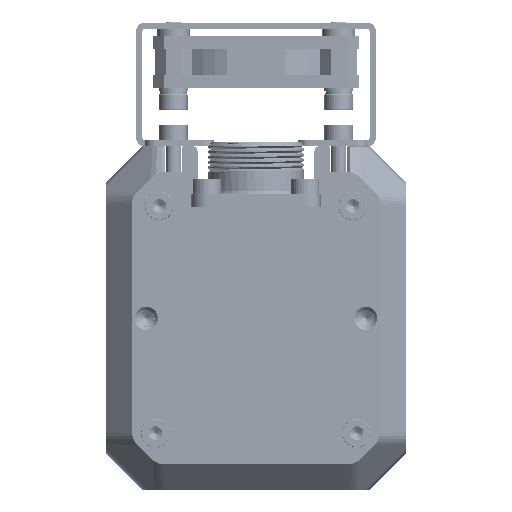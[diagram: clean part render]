
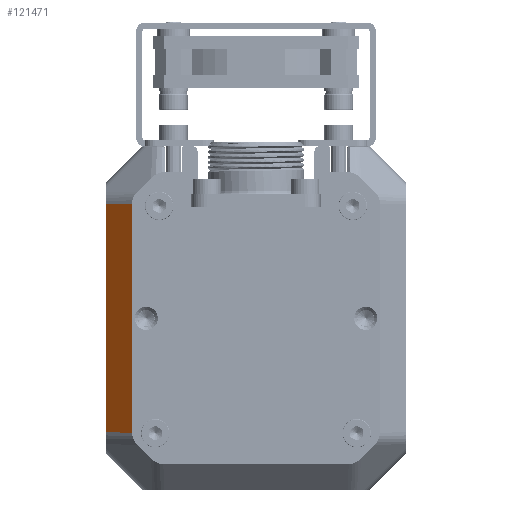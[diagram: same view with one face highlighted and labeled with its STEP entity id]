
A CAD part, front view. The second image highlights one B-rep face of the part: STEP entity #121471.
In plain terms, the highlighted planar face has unit normal (-0.707, -0.707, 0).
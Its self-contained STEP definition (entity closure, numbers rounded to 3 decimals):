
#15578=CARTESIAN_POINT('',(-24.,-735.,-55.435));
#15586=DIRECTION('',(0.707,-0.707,-0.02));
#15587=VECTOR('',#15586,7.072);
#15588=CARTESIAN_POINT('',(-29.,-730.,-55.297));
#15589=LINE('',#15588,#15587);
#15590=DIRECTION('',(0.,0.,-1.));
#15591=VECTOR('',#15590,44.094);
#15592=CARTESIAN_POINT('',(-29.,-730.,-11.203));
#15593=LINE('',#15592,#15591);
#15594=DIRECTION('',(-0.707,0.707,-0.02));
#15595=VECTOR('',#15594,7.072);
#15596=CARTESIAN_POINT('',(-24.,-735.,-11.065));
#15597=LINE('',#15596,#15595);
#15598=DIRECTION('',(0.,0.,1.));
#15599=VECTOR('',#15598,44.371);
#15600=CARTESIAN_POINT('',(-24.,-735.,-55.435));
#15601=LINE('',#15600,#15599);
#15612=CARTESIAN_POINT('',(-29.,-730.,-11.203));
#79599=VERTEX_POINT('',#15578);
#79600=CARTESIAN_POINT('',(-24.,-735.,-11.065));
#79601=VERTEX_POINT('',#79600);
#79811=VERTEX_POINT('',#15612);
#79812=CARTESIAN_POINT('',(-29.,-730.,-55.297));
#79813=VERTEX_POINT('',#79812);
#121458=CARTESIAN_POINT('',(-26.5,-732.5,-33.25));
#121459=DIRECTION('',(-0.707,-0.707,0.));
#121460=DIRECTION('',(-0.707,0.707,0.));
#121461=AXIS2_PLACEMENT_3D('',#121458,#121459,#121460);
#121462=PLANE('',#121461);
#121463=ORIENTED_EDGE('',*,*,#121442,.F.);
#121464=ORIENTED_EDGE('',*,*,#100295,.F.);
#121466=ORIENTED_EDGE('',*,*,#121465,.F.);
#121468=ORIENTED_EDGE('',*,*,#121467,.F.);
#121469=EDGE_LOOP('',(#121463,#121464,#121466,#121468));
#121470=FACE_OUTER_BOUND('',#121469,.F.);
#100295=EDGE_CURVE('',#79811,#79813,#15593,.T.);
#121442=EDGE_CURVE('',#79813,#79599,#15589,.T.);
#121465=EDGE_CURVE('',#79601,#79811,#15597,.T.);
#121467=EDGE_CURVE('',#79599,#79601,#15601,.T.);
#121471=ADVANCED_FACE('',(#121470),#121462,.T.);
